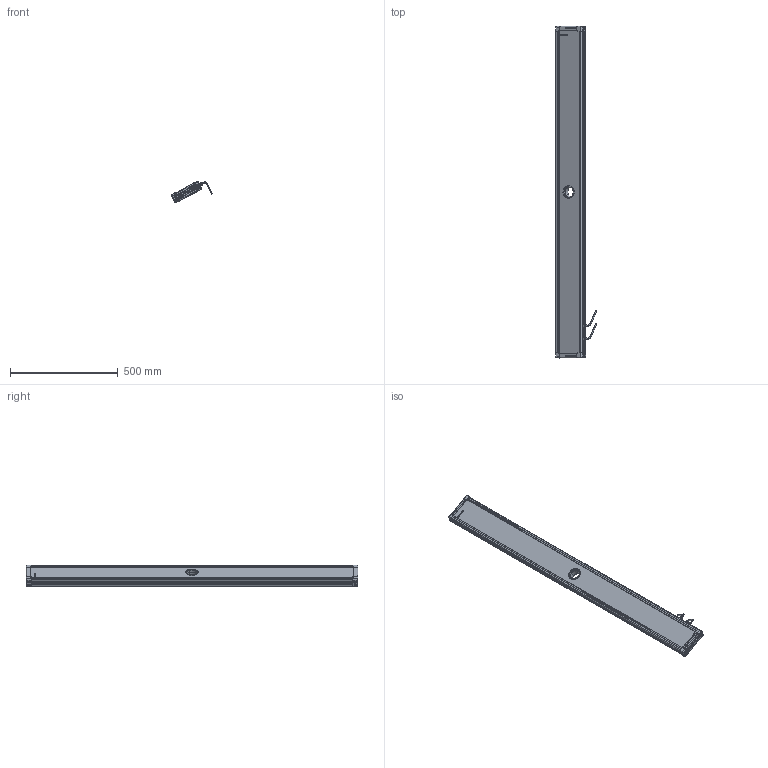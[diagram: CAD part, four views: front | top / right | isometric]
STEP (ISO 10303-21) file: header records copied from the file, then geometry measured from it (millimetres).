
FILE_DESCRIPTION (( 'STEP AP214' ), '1' );
FILE_NAME ('EFFI-FD-100-1500-ZZZ-2M12.STEP', '2021-06-21T10:53:09', ( '' ), ( '' ), 'SwSTEP 2.0', 'SolidWorks 2021', '' );
FILE_SCHEMA (( 'AUTOMOTIVE_DESIGN' ));
Length unit declared in the file: millimetre
Products named in the file (13): profile Y_PERCE; Assemblage Ø50; 001040; petite joue + vis; cordon_Avec cable; Pièce13^EFFI-BL-XXX-YYY-ZZZ (2 connecteurs) Ø50; 000590; petite joue; EFFI-FD-100-1500-ZZZ-2M12; profile X_PERCE; 000629; 001039
Assembly tree (20 placements, depth 3):
  EFFI-FD-100-1500-ZZZ-2M12
    profile X_PERCE  x2
    profile Y_PERCE
    profile Y_PERCE
    Pièce13^EFFI-BL-XXX-YYY-ZZZ (2 connecteurs) Ø50
    petite joue + vis  x4
      petite joue
      000629
    Assemblage Ø50
      001039
      001040
      000590  x3
    cordon_Avec cable  x2
Bounding box: 189.91 x 1539 x 99.7 mm (x, y, z)
Volume: 7220075.7 mm3; surface area: 941548.1 mm2
Topology: 22 solids, 34 shells, 4044 faces, 10746 edges, 7052 vertices
Faces by surface type: plane 2495, cylinder 739, bspline 603, cone 154, torus 45, sphere 8
Entity records: 56929 total; most frequent: CARTESIAN_POINT 22745, ORIENTED_EDGE 7120, DIRECTION 5873, EDGE_CURVE 3564, VECTOR 2489, LINE 2489, VERTEX_POINT 2343, AXIS2_PLACEMENT_3D 1692
